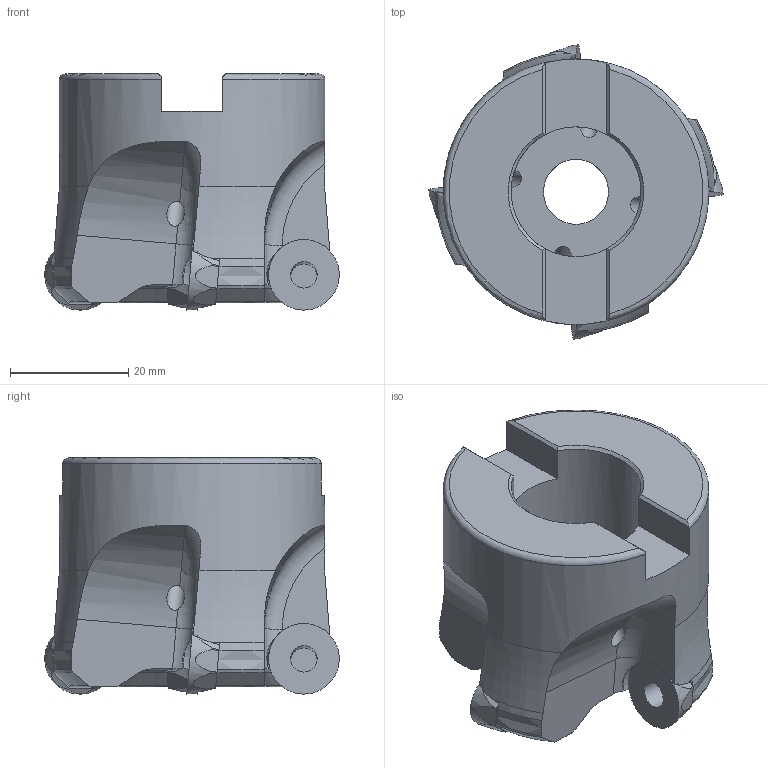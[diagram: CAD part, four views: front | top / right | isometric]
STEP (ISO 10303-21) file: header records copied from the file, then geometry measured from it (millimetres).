
FILE_DESCRIPTION(/* description */ (''),/* implementation_level */ '2;1');
FILE_NAME(/* name */ 'FMRCM4050HRP-4-HAAS_211209.stp',/* time_stamp */ '2021-12-09T15:07:12+09:00',/* author */ (''),/* organization */ (''),/* preprocessor_version */ 'ST-DEVELOPER v16',/* originating_system */ 'SIEMENS PLM Software NX 10.0',/* authorisation */ '');
FILE_SCHEMA (('AUTOMOTIVE_DESIGN { 1 0 10303 214 3 1 1 1 }'));
Length unit declared in the file: millimetre
Products named in the file (1): user583C6A71u35r
Bounding box: 49.85 x 49.85 x 40 mm (x, y, z)
Volume: 35372 mm3; surface area: 12303.2 mm2
Topology: 5 solids, 5 shells, 191 faces, 638 edges, 451 vertices
Faces by surface type: plane 72, cylinder 65, cone 35, torus 19
Full cylindrical faces by diameter (mm): 3 x4, 4.5 x4, 11 x1, 18 x1, 22 x1, 23 x1, 45 x1
Entity records: 8998 total; most frequent: CARTESIAN_POINT 2954, ORIENTED_EDGE 1206, DIRECTION 1110, EDGE_CURVE 603, AXIS2_PLACEMENT_3D 483, VERTEX_POINT 435, EDGE_LOOP 222, CIRCLE 203
